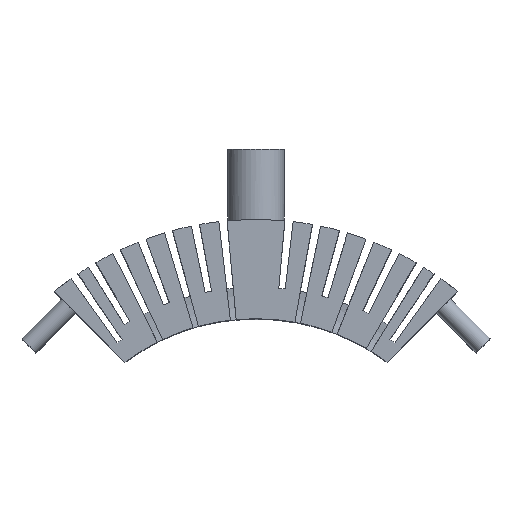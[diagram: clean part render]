
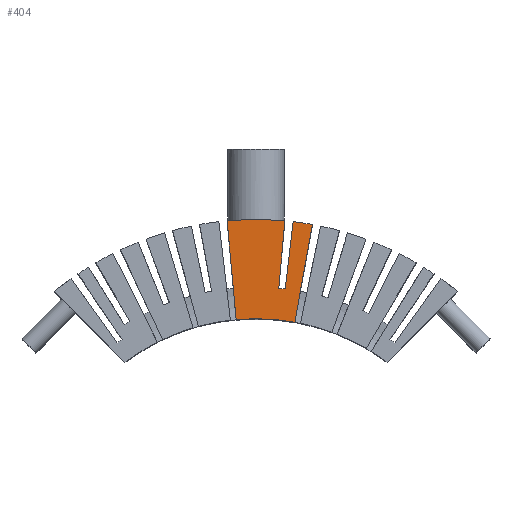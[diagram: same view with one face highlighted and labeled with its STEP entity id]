
A CAD part, top view. The second image highlights one B-rep face of the part: STEP entity #404.
In plain terms, the highlighted planar face has unit normal (0, 0, 1).
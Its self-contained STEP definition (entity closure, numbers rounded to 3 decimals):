
#404=ADVANCED_FACE('',(#986),#987,.T.);
#986=FACE_OUTER_BOUND('',#1750,.T.);
#987=PLANE('',#1751);
#1750=EDGE_LOOP('',(#2938,#2939,#2940,#2941,#2942,#2943,#2944,#2945));
#1751=AXIS2_PLACEMENT_3D('',#2946,#2947,#2948);
#2938=ORIENTED_EDGE('',*,*,#5125,.T.);
#2939=ORIENTED_EDGE('',*,*,#5126,.F.);
#2940=ORIENTED_EDGE('',*,*,#5127,.T.);
#2941=ORIENTED_EDGE('',*,*,#5128,.T.);
#2942=ORIENTED_EDGE('',*,*,#5129,.T.);
#2943=ORIENTED_EDGE('',*,*,#5008,.F.);
#2944=ORIENTED_EDGE('',*,*,#5130,.T.);
#2945=ORIENTED_EDGE('',*,*,#5131,.F.);
#2946=CARTESIAN_POINT('',(-46.495,62.378,118.0));
#2947=DIRECTION('',(0.,0.,1.0));
#2948=DIRECTION('',(1.0,0.,0.));
#5008=EDGE_CURVE('',#6179,#6181,#6182,.T.);
#5125=EDGE_CURVE('',#6373,#6374,#6375,.T.);
#5126=EDGE_CURVE('',#6376,#6374,#6377,.T.);
#5127=EDGE_CURVE('',#6376,#6378,#6379,.T.);
#5128=EDGE_CURVE('',#6378,#6380,#6381,.T.);
#5129=EDGE_CURVE('',#6380,#6181,#6382,.T.);
#5130=EDGE_CURVE('',#6179,#6383,#6384,.T.);
#5131=EDGE_CURVE('',#6373,#6383,#6385,.T.);
#6179=VERTEX_POINT('',#7912);
#6181=VERTEX_POINT('',#7915);
#6182=CIRCLE('',#7916,113.0);
#6373=VERTEX_POINT('',#8446);
#6374=VERTEX_POINT('',#8447);
#6375=LINE('',#8448,#8449);
#6376=VERTEX_POINT('',#8450);
#6377=CIRCLE('',#8451,113.0);
#6378=VERTEX_POINT('',#8452);
#6379=LINE('',#8453,#8454);
#6380=VERTEX_POINT('',#8455);
#6381=CIRCLE('',#8456,89.0);
#6382=LINE('',#8457,#8458);
#6383=VERTEX_POINT('',#8459);
#6384=LINE('',#8460,#8461);
#6385=CIRCLE('',#8462,77.8);
#7912=CARTESIAN_POINT('',(-10.241,112.535,118.0));
#7915=CARTESIAN_POINT('',(10.241,112.535,118.0));
#7916=AXIS2_PLACEMENT_3D('',#10301,#10302,#10303);
#8446=CARTESIAN_POINT('',(13.777,76.57,118.0));
#8447=CARTESIAN_POINT('',(20.011,111.214,118.0));
#8448=CARTESIAN_POINT('',(13.959,77.583,118.0));
#8449=VECTOR('',#10483,1.0);
#8450=CARTESIAN_POINT('',(13.184,112.228,118.0));
#8451=AXIS2_PLACEMENT_3D('',#10484,#10485,#10486);
#8452=CARTESIAN_POINT('',(10.384,88.392,118.0));
#8453=CARTESIAN_POINT('',(9.394,79.964,118.0));
#8454=VECTOR('',#10487,1.0);
#8455=CARTESIAN_POINT('',(8.066,88.634,118.0));
#8456=AXIS2_PLACEMENT_3D('',#10488,#10489,#10490);
#8457=CARTESIAN_POINT('',(7.36,80.87,118.0));
#8458=VECTOR('',#10491,1.0);
#8459=CARTESIAN_POINT('',(-7.051,77.48,118.0));
#8460=CARTESIAN_POINT('',(-7.311,80.336,118.0));
#8461=VECTOR('',#10492,1.0);
#8462=AXIS2_PLACEMENT_3D('',#10493,#10494,#10495);
#10301=CARTESIAN_POINT('',(0.,0.,118.0));
#10302=DIRECTION('',(0.,0.,-1.0));
#10303=DIRECTION('',(1.0,0.,0.));
#10483=DIRECTION('',(0.177,0.984,0.));
#10484=CARTESIAN_POINT('',(0.,0.,118.0));
#10485=DIRECTION('',(0.,0.,-1.0));
#10486=DIRECTION('',(1.0,0.,0.));
#10487=DIRECTION('',(-0.117,-0.993,0.));
#10488=CARTESIAN_POINT('',(0.,0.,118.0));
#10489=DIRECTION('',(0.,0.,1.0));
#10490=DIRECTION('',(1.0,0.,0.));
#10491=DIRECTION('',(0.091,0.996,0.));
#10492=DIRECTION('',(0.091,-0.996,0.));
#10493=CARTESIAN_POINT('',(0.,0.,118.0));
#10494=DIRECTION('',(0.,0.,1.0));
#10495=DIRECTION('',(1.0,0.,0.));
